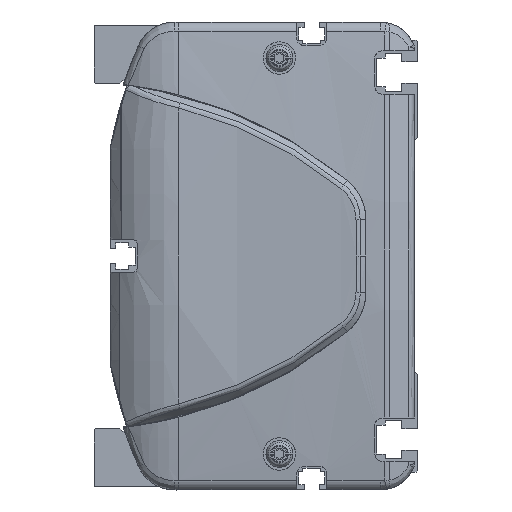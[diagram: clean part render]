
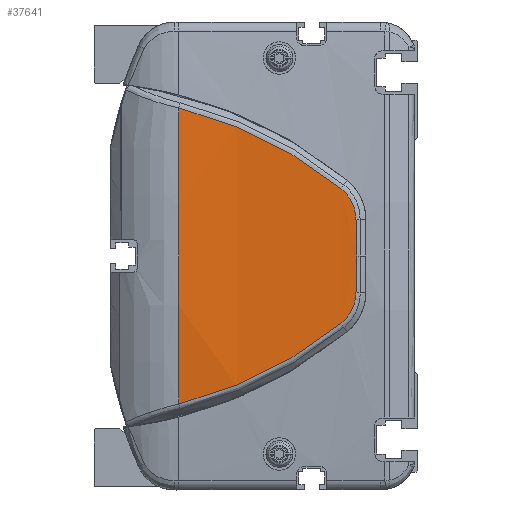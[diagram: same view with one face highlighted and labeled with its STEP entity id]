
A CAD part, left-side view. The second image highlights one B-rep face of the part: STEP entity #37641.
In plain terms, the highlighted cylindrical face has radius 500 mm (diameter 1000 mm), a partial arc.
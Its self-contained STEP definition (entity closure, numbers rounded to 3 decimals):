
#33871=CARTESIAN_POINT('',(486.,66.362,0.));
#33872=DIRECTION('',(0.,-1.,0.));
#33873=DIRECTION('',(-0.997,0.,0.082));
#33874=AXIS2_PLACEMENT_3D('',#33871,#33872,#33873);
#34756=CARTESIAN_POINT('',(-13.648,21.313,
-18.759));
#34757=CARTESIAN_POINT('',(-13.449,27.904,
-24.058));
#34758=CARTESIAN_POINT('',(-12.934,42.195,
-33.27));
#34759=CARTESIAN_POINT('',(-12.471,58.156,
-39.127));
#34760=CARTESIAN_POINT('',(-12.306,66.362,
-41.121));
#34762=CARTESIAN_POINT('',(-12.306,66.362,
41.121));
#34763=CARTESIAN_POINT('',(-12.471,58.156,
39.127));
#34764=CARTESIAN_POINT('',(-12.934,42.195,
33.27));
#34765=CARTESIAN_POINT('',(-13.449,27.904,
24.058));
#34766=CARTESIAN_POINT('',(-13.648,21.313,
18.759));
#34768=CARTESIAN_POINT('',(-13.648,21.313,
18.759));
#34769=CARTESIAN_POINT('',(-13.686,20.035,
17.736));
#34770=CARTESIAN_POINT('',(-13.779,17.936,
15.107));
#34771=CARTESIAN_POINT('',(-13.863,17.152,
11.827));
#34772=CARTESIAN_POINT('',(-13.896,17.124,
10.178));
#34774=CARTESIAN_POINT('',(-13.896,17.124,
10.178));
#34775=CARTESIAN_POINT('',(-13.92,17.107,
9.025));
#34776=CARTESIAN_POINT('',(-13.959,17.067,
6.732));
#34777=CARTESIAN_POINT('',(-13.993,16.98,
3.338));
#34778=CARTESIAN_POINT('',(-14.,16.898,
1.107));
#34779=CARTESIAN_POINT('',(-14.,16.849,
0.));
#34781=CARTESIAN_POINT('',(-14.,16.849,
0.));
#34782=CARTESIAN_POINT('',(-14.,16.898,
-1.107));
#34783=CARTESIAN_POINT('',(-13.993,16.98,
-3.338));
#34784=CARTESIAN_POINT('',(-13.959,17.067,
-6.731));
#34785=CARTESIAN_POINT('',(-13.92,17.107,
-9.027));
#34786=CARTESIAN_POINT('',(-13.896,17.124,
-10.18));
#34788=CARTESIAN_POINT('',(-13.896,17.124,
-10.18));
#34789=CARTESIAN_POINT('',(-13.863,17.152,
-11.828));
#34790=CARTESIAN_POINT('',(-13.779,17.937,
-15.109));
#34791=CARTESIAN_POINT('',(-13.686,20.035,
-17.736));
#34792=CARTESIAN_POINT('',(-13.648,21.313,
-18.759));
#35463=VERTEX_POINT('',#34756);
#35464=VERTEX_POINT('',#34760);
#35465=CARTESIAN_POINT('',(-12.306,66.362,
41.121));
#35466=VERTEX_POINT('',#35465);
#35467=VERTEX_POINT('',#34766);
#35468=VERTEX_POINT('',#34772);
#35469=VERTEX_POINT('',#34779);
#35470=VERTEX_POINT('',#34786);
#37622=CARTESIAN_POINT('',(486.,8.006,0.));
#37623=DIRECTION('',(0.,1.,0.));
#37624=DIRECTION('',(1.,0.,0.));
#37625=AXIS2_PLACEMENT_3D('',#37622,#37623,#37624);
#37626=CYLINDRICAL_SURFACE('',#37625,500.);
#37628=ORIENTED_EDGE('',*,*,#37627,.T.);
#37629=ORIENTED_EDGE('',*,*,#36265,.F.);
#37631=ORIENTED_EDGE('',*,*,#37630,.T.);
#37633=ORIENTED_EDGE('',*,*,#37632,.T.);
#37635=ORIENTED_EDGE('',*,*,#37634,.T.);
#37637=ORIENTED_EDGE('',*,*,#37636,.T.);
#37638=ORIENTED_EDGE('',*,*,#37612,.T.);
#37639=EDGE_LOOP('',(#37628,#37629,#37631,#37633,#37635,#37637,#37638));
#37640=FACE_OUTER_BOUND('',#37639,.F.);
#37641=ADVANCED_FACE('',(#37640),#37626,.T.);
#33875=CIRCLE('',#33874,500.);
#34761=B_SPLINE_CURVE_WITH_KNOTS('',3,(#34756,#34757,#34758,#34759,#34760),
.UNSPECIFIED.,.F.,.F.,(4,1,4),(0.,0.5,1.),.UNSPECIFIED.);
#34767=B_SPLINE_CURVE_WITH_KNOTS('',3,(#34762,#34763,#34764,#34765,#34766),
.UNSPECIFIED.,.F.,.F.,(4,1,4),(0.,0.5,1.),.UNSPECIFIED.);
#34773=B_SPLINE_CURVE_WITH_KNOTS('',3,(#34768,#34769,#34770,#34771,#34772),
.UNSPECIFIED.,.F.,.F.,(4,1,4),(0.,0.5,1.),.UNSPECIFIED.);
#34780=B_SPLINE_CURVE_WITH_KNOTS('',3,(#34774,#34775,#34776,#34777,#34778,
#34779),.UNSPECIFIED.,.F.,.F.,(4,1,1,4),(0.,0.333,
0.667,1.),.UNSPECIFIED.);
#34787=B_SPLINE_CURVE_WITH_KNOTS('',3,(#34781,#34782,#34783,#34784,#34785,
#34786),.UNSPECIFIED.,.F.,.F.,(4,1,1,4),(0.,0.333,
0.667,1.),.UNSPECIFIED.);
#34793=B_SPLINE_CURVE_WITH_KNOTS('',3,(#34788,#34789,#34790,#34791,#34792),
.UNSPECIFIED.,.F.,.F.,(4,1,4),(0.,0.5,1.),.UNSPECIFIED.);
#36265=EDGE_CURVE('',#35466,#35464,#33875,.T.);
#37612=EDGE_CURVE('',#35470,#35463,#34793,.T.);
#37627=EDGE_CURVE('',#35463,#35464,#34761,.T.);
#37630=EDGE_CURVE('',#35466,#35467,#34767,.T.);
#37632=EDGE_CURVE('',#35467,#35468,#34773,.T.);
#37634=EDGE_CURVE('',#35468,#35469,#34780,.T.);
#37636=EDGE_CURVE('',#35469,#35470,#34787,.T.);
